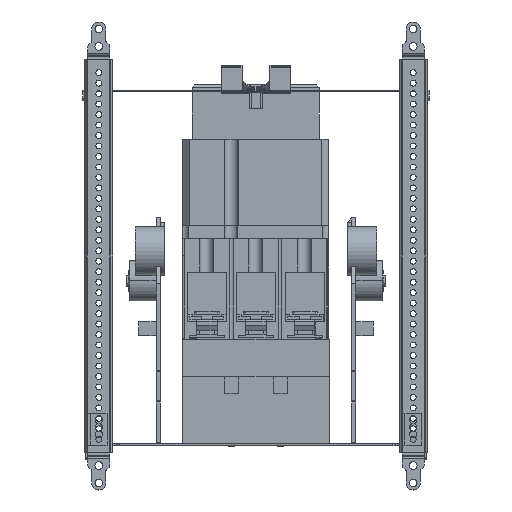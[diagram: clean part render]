
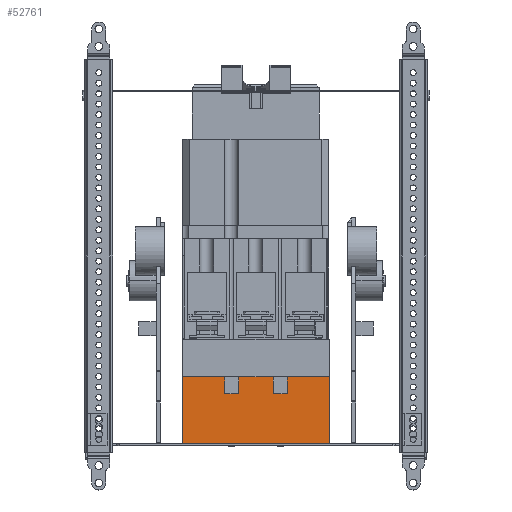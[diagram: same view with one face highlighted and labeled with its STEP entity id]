
A CAD part, left-side view. The second image highlights one B-rep face of the part: STEP entity #52761.
In plain terms, the highlighted planar face has unit normal (-1, 0, 0).
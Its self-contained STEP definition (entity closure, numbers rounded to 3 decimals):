
#49626=CARTESIAN_POINT(' ',(-117.161,-49.467,-17.647));
#49627=VERTEX_POINT(' ',#49626);
#49641=CARTESIAN_POINT(' ',(-117.161,-49.467,-65.647));
#49646=DIRECTION(' ',(0.,0.,1.));
#49651=VECTOR(' ',#49646,1.);
#49656=LINE('',#49641,#49651);
#49661=CARTESIAN_POINT(' ',(-117.161,-49.467,-65.647));
#49662=VERTEX_POINT(' ',#49661);
#49666=EDGE_CURVE(' ',#49662,#49627,#49656,.T.);
#50711=CARTESIAN_POINT(' ',(-117.161,55.533,-65.647));
#50712=VERTEX_POINT(' ',#50711);
#50726=CARTESIAN_POINT(' ',(-117.161,55.533,-65.647));
#50731=DIRECTION(' ',(0.,0.,1.));
#50736=VECTOR(' ',#50731,1.);
#50741=LINE('',#50726,#50736);
#50746=CARTESIAN_POINT(' ',(-117.161,55.533,-17.647));
#50747=VERTEX_POINT(' ',#50746);
#50751=EDGE_CURVE(' ',#50712,#50747,#50741,.T.);
#52006=CARTESIAN_POINT(' ',(-117.161,15.533,-17.647));
#52007=VERTEX_POINT(' ',#52006);
#52041=CARTESIAN_POINT(' ',(-117.161,-9.467,-17.647));
#52042=VERTEX_POINT(' ',#52041);
#52146=CARTESIAN_POINT(' ',(-117.161,-19.467,-17.647));
#52147=VERTEX_POINT(' ',#52146);
#52161=CARTESIAN_POINT(' ',(-117.161,-19.467,-17.647));
#52166=DIRECTION(' ',(0.,-1.,0.));
#52171=VECTOR(' ',#52166,1.);
#52176=LINE('',#52161,#52171);
#52181=EDGE_CURVE(' ',#52147,#49627,#52176,.T.);
#52206=CARTESIAN_POINT(' ',(-117.161,55.533,-17.647));
#52211=DIRECTION(' ',(0.,-1.,0.));
#52216=VECTOR(' ',#52211,1.);
#52221=LINE('',#52206,#52216);
#52226=CARTESIAN_POINT(' ',(-117.161,25.533,-17.647));
#52227=VERTEX_POINT(' ',#52226);
#52231=EDGE_CURVE(' ',#50747,#52227,#52221,.T.);
#52446=DIRECTION(' ',(-1.,0.,0.));
#52451=CARTESIAN_POINT(' ',(-117.161,-49.467,-17.647));
#52456=DIRECTION(' ',(0.,1.,0.));
#52461=AXIS2_PLACEMENT_3D(' ',#52451,#52446,#52456);
#52466=PLANE('NONE',#52461);
#52471=CARTESIAN_POINT(' ',(-117.161,-19.467,-29.647));
#52476=DIRECTION(' ',(0.,0.,1.));
#52481=VECTOR(' ',#52476,1.);
#52486=LINE('',#52471,#52481);
#52491=CARTESIAN_POINT(' ',(-117.161,-19.467,-29.647));
#52492=VERTEX_POINT(' ',#52491);
#52496=EDGE_CURVE(' ',#52492,#52147,#52486,.T.);
#52501=ORIENTED_EDGE(' ',*,*,#52496,.F.);
#52506=CARTESIAN_POINT(' ',(-117.161,-9.467,-29.647));
#52511=DIRECTION(' ',(0.,-1.,0.));
#52516=VECTOR(' ',#52511,1.);
#52521=LINE('',#52506,#52516);
#52526=CARTESIAN_POINT(' ',(-117.161,-9.467,-29.647));
#52527=VERTEX_POINT(' ',#52526);
#52531=EDGE_CURVE(' ',#52527,#52492,#52521,.T.);
#52536=ORIENTED_EDGE(' ',*,*,#52531,.F.);
#52541=CARTESIAN_POINT(' ',(-117.161,-9.467,-17.647));
#52546=DIRECTION(' ',(0.,0.,-1.));
#52551=VECTOR(' ',#52546,1.);
#52556=LINE('',#52541,#52551);
#52561=EDGE_CURVE(' ',#52042,#52527,#52556,.T.);
#52566=ORIENTED_EDGE(' ',*,*,#52561,.F.);
#52571=CARTESIAN_POINT(' ',(-117.161,-9.467,-17.647));
#52576=DIRECTION(' ',(0.,1.,0.));
#52581=VECTOR(' ',#52576,1.);
#52586=LINE('',#52571,#52581);
#52591=EDGE_CURVE(' ',#52042,#52007,#52586,.T.);
#52596=ORIENTED_EDGE(' ',*,*,#52591,.T.);
#52601=CARTESIAN_POINT(' ',(-117.161,15.533,-29.647));
#52606=DIRECTION(' ',(0.,0.,1.));
#52611=VECTOR(' ',#52606,1.);
#52616=LINE('',#52601,#52611);
#52621=CARTESIAN_POINT(' ',(-117.161,15.533,-29.647));
#52622=VERTEX_POINT(' ',#52621);
#52626=EDGE_CURVE(' ',#52622,#52007,#52616,.T.);
#52631=ORIENTED_EDGE(' ',*,*,#52626,.F.);
#52636=CARTESIAN_POINT(' ',(-117.161,25.533,-29.647));
#52641=DIRECTION(' ',(0.,-1.,0.));
#52646=VECTOR(' ',#52641,1.);
#52651=LINE('',#52636,#52646);
#52656=CARTESIAN_POINT(' ',(-117.161,25.533,-29.647));
#52657=VERTEX_POINT(' ',#52656);
#52661=EDGE_CURVE(' ',#52657,#52622,#52651,.T.);
#52666=ORIENTED_EDGE(' ',*,*,#52661,.F.);
#52671=CARTESIAN_POINT(' ',(-117.161,25.533,-17.647));
#52676=DIRECTION(' ',(0.,0.,-1.));
#52681=VECTOR(' ',#52676,1.);
#52686=LINE('',#52671,#52681);
#52691=EDGE_CURVE(' ',#52227,#52657,#52686,.T.);
#52696=ORIENTED_EDGE(' ',*,*,#52691,.F.);
#52701=ORIENTED_EDGE(' ',*,*,#52231,.F.);
#52706=ORIENTED_EDGE(' ',*,*,#50751,.F.);
#52711=CARTESIAN_POINT(' ',(-117.161,55.533,-65.647));
#52716=DIRECTION(' ',(0.,-1.,0.));
#52721=VECTOR(' ',#52716,1.);
#52726=LINE('',#52711,#52721);
#52731=EDGE_CURVE(' ',#50712,#49662,#52726,.T.);
#52736=ORIENTED_EDGE(' ',*,*,#52731,.T.);
#52741=ORIENTED_EDGE(' ',*,*,#49666,.T.);
#52746=ORIENTED_EDGE(' ',*,*,#52181,.F.);
#52751=EDGE_LOOP(' ',(#52501,#52536,#52566,#52596,#52631,#52666,#52696,#52701,#52706,#52736,#52741,#52746));
#52756=FACE_OUTER_BOUND(' ',#52751,.T.);
#52761=ADVANCED_FACE('NONE',(#52756),#52466,.T.);
